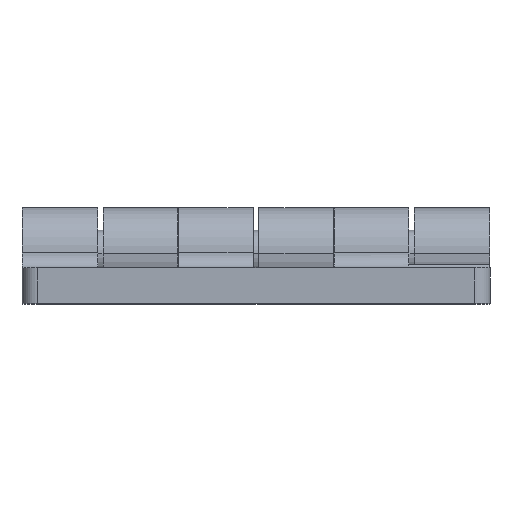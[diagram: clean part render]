
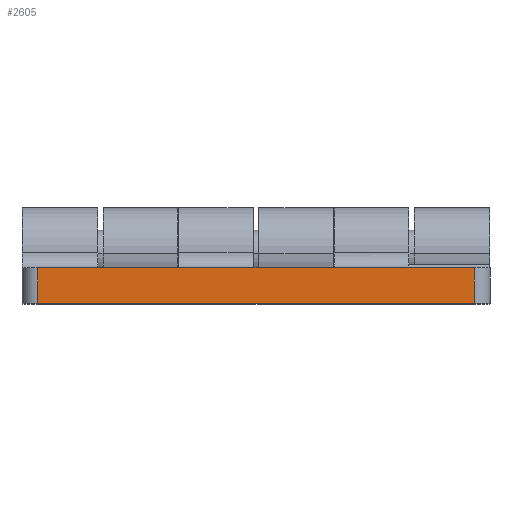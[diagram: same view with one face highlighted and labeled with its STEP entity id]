
A CAD part, top view. The second image highlights one B-rep face of the part: STEP entity #2605.
In plain terms, the highlighted planar face has unit normal (0, 0, 1).
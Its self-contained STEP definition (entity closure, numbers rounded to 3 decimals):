
#137 = VECTOR ( 'NONE', #4143, 1000. ) ;
#243 = DIRECTION ( 'NONE',  ( 0., -1., 0. ) ) ;
#418 = LINE ( 'NONE', #5050, #137 ) ;
#425 = CARTESIAN_POINT ( 'NONE',  ( -29.75, -1.85, 35.15 ) ) ;
#627 = CARTESIAN_POINT ( 'NONE',  ( -29.75, -6.35, 35.15 ) ) ;
#695 = DIRECTION ( 'NONE',  ( 1., 0., 0. ) ) ;
#891 = VERTEX_POINT ( 'NONE', #4499 ) ;
#1274 = EDGE_CURVE ( 'NONE', #891, #5639, #3679, .T. ) ;
#1309 = DIRECTION ( 'NONE',  ( 1., 0., 0. ) ) ;
#1606 = LINE ( 'NONE', #627, #5896 ) ;
#1696 = CARTESIAN_POINT ( 'NONE',  ( 27.75, -1.85, 35.15 ) ) ;
#2471 = CARTESIAN_POINT ( 'NONE',  ( -27.75, -6.35, 35.15 ) ) ;
#2605 = ADVANCED_FACE ( 'NONE', ( #3609 ), #5469, .F. ) ;
#2999 = CARTESIAN_POINT ( 'NONE',  ( 27.75, -6.35, 35.15 ) ) ;
#3169 = DIRECTION ( 'NONE',  ( 0., 0., -1. ) ) ;
#3227 = CARTESIAN_POINT ( 'NONE',  ( -27.75, -1.85, 35.15 ) ) ;
#3275 = ORIENTED_EDGE ( 'NONE', *, *, #4315, .T. ) ;
#3551 = VECTOR ( 'NONE', #243, 1000. ) ;
#3601 = ORIENTED_EDGE ( 'NONE', *, *, #4078, .T. ) ;
#3609 = FACE_OUTER_BOUND ( 'NONE', #3709, .T. ) ;
#3679 = LINE ( 'NONE', #3227, #3551 ) ;
#3709 = EDGE_LOOP ( 'NONE', ( #4053, #5652, #3601, #3275 ) ) ;
#4053 = ORIENTED_EDGE ( 'NONE', *, *, #4988, .F. ) ;
#4078 = EDGE_CURVE ( 'NONE', #5639, #4859, #1606, .T. ) ;
#4121 = AXIS2_PLACEMENT_3D ( 'NONE', #5410, #3169, #5436 ) ;
#4143 = DIRECTION ( 'NONE',  ( 0., 1., 0. ) ) ;
#4315 = EDGE_CURVE ( 'NONE', #4859, #5430, #418, .T. ) ;
#4425 = LINE ( 'NONE', #425, #4655 ) ;
#4499 = CARTESIAN_POINT ( 'NONE',  ( -27.75, -1.85, 35.15 ) ) ;
#4655 = VECTOR ( 'NONE', #1309, 1000. ) ;
#4859 = VERTEX_POINT ( 'NONE', #2999 ) ;
#4988 = EDGE_CURVE ( 'NONE', #891, #5430, #4425, .T. ) ;
#5050 = CARTESIAN_POINT ( 'NONE',  ( 27.75, -1.85, 35.15 ) ) ;
#5410 = CARTESIAN_POINT ( 'NONE',  ( -29.75, -1.85, 35.15 ) ) ;
#5430 = VERTEX_POINT ( 'NONE', #1696 ) ;
#5436 = DIRECTION ( 'NONE',  ( -1., 0., 0. ) ) ;
#5469 = PLANE ( 'NONE',  #4121 ) ;
#5639 = VERTEX_POINT ( 'NONE', #2471 ) ;
#5652 = ORIENTED_EDGE ( 'NONE', *, *, #1274, .T. ) ;
#5896 = VECTOR ( 'NONE', #695, 1000. ) ;
